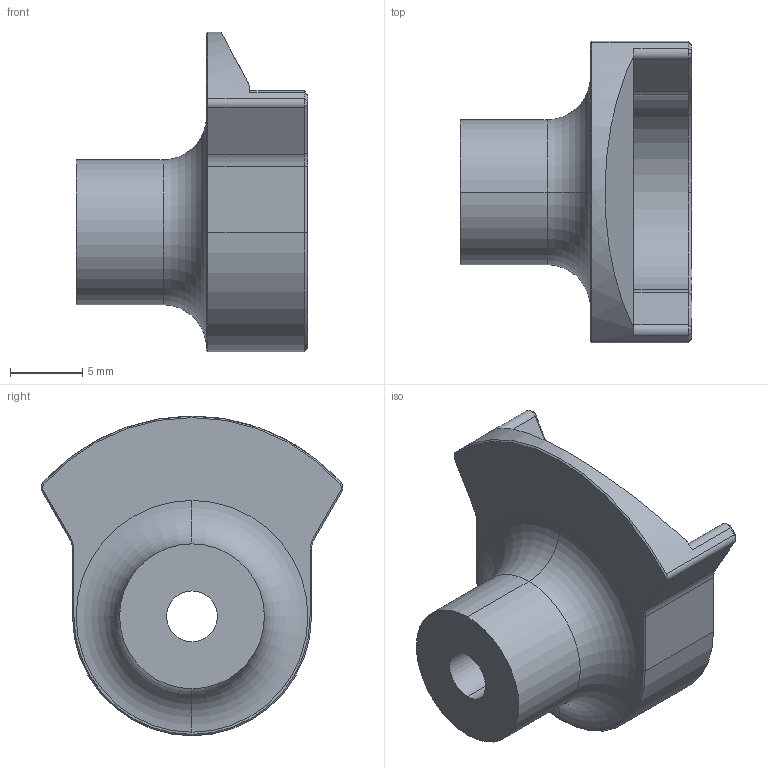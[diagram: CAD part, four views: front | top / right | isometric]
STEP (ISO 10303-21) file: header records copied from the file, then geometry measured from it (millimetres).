
FILE_DESCRIPTION (( 'STEP AP203' ), '1' );
FILE_NAME ('1310464.STEP', '2026-05-19T08:20:51', ( 'Chris' ), ( 'Big Sky CNC' ), 'SwSTEP 2.0', 'SolidWorks 2012', '' );
FILE_SCHEMA (( 'CONFIG_CONTROL_DESIGN' ));
Length unit declared in the file: millimetre
Products named in the file (1): 1310464
Bounding box: 16 x 20.83 x 22.07 mm (x, y, z)
Volume: 1630.1 mm3; surface area: 1616 mm2
Topology: 1 solids, 1 shells, 69 faces, 161 edges, 96 vertices
Faces by surface type: plane 26, cone 24, cylinder 17, torus 2
Entity records: 2033 total; most frequent: DIRECTION 369, CARTESIAN_POINT 330, ORIENTED_EDGE 322, EDGE_CURVE 161, AXIS2_PLACEMENT_3D 139, VERTEX_POINT 96, LINE 91, VECTOR 91
